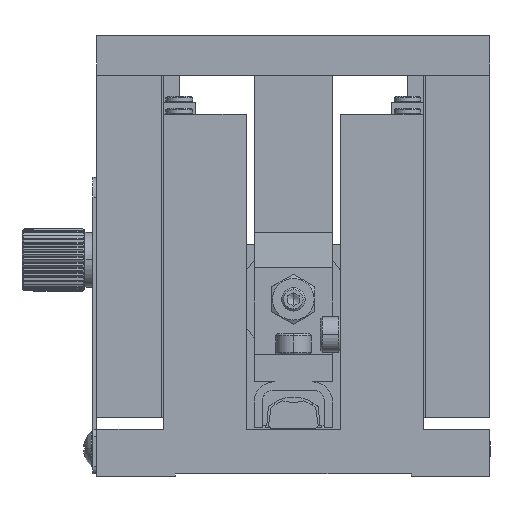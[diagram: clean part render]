
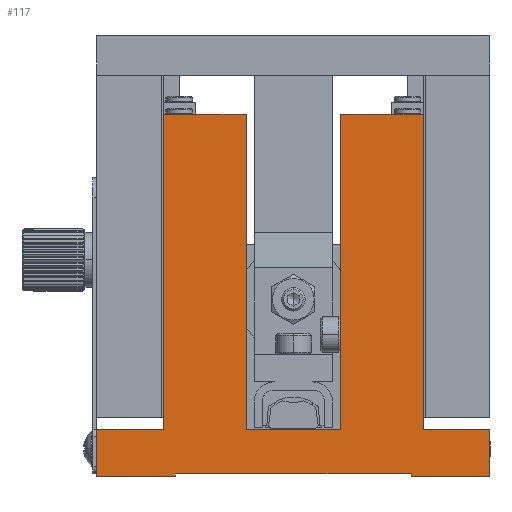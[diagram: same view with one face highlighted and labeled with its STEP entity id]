
A CAD part, left-side view. The second image highlights one B-rep face of the part: STEP entity #117.
In plain terms, the highlighted planar face has unit normal (-1, 0, 0).
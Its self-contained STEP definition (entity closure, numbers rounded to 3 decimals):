
#117=ADVANCED_FACE('',(#2330),#2329,.T.);
#2329=PLANE('',#24217);
#2330=FACE_OUTER_BOUND('',#24218,.T.);
#24214=CARTESIAN_POINT('',(-25.,30.,50.6));
#24215=DIRECTION('',(-1.,0.,0.));
#24216=DIRECTION('',(0.,0.,-1.));
#24217=AXIS2_PLACEMENT_3D('',#24214,#24215,#24216);
#24218=EDGE_LOOP('',(#38934,#38935,#38936,#38937,#38938,#38939,#38940,#38941,#38942,#38943,#38944,#38945,#38946,#38947,#38948,#38949));
#38934=ORIENTED_EDGE('',*,*,#48827,.T.);
#38935=ORIENTED_EDGE('',*,*,#48828,.T.);
#38936=ORIENTED_EDGE('',*,*,#48829,.T.);
#38937=ORIENTED_EDGE('',*,*,#48830,.T.);
#38938=ORIENTED_EDGE('',*,*,#48831,.T.);
#38939=ORIENTED_EDGE('',*,*,#48832,.T.);
#38940=ORIENTED_EDGE('',*,*,#48833,.T.);
#38941=ORIENTED_EDGE('',*,*,#48834,.T.);
#38942=ORIENTED_EDGE('',*,*,#48835,.T.);
#38943=ORIENTED_EDGE('',*,*,#48836,.F.);
#38944=ORIENTED_EDGE('',*,*,#48837,.T.);
#38945=ORIENTED_EDGE('',*,*,#48838,.T.);
#38946=ORIENTED_EDGE('',*,*,#48839,.T.);
#38947=ORIENTED_EDGE('',*,*,#48840,.F.);
#38948=ORIENTED_EDGE('',*,*,#48841,.T.);
#38949=ORIENTED_EDGE('',*,*,#48820,.F.);
#48820=EDGE_CURVE('',#53893,#53900,#53901,.T.);
#48827=EDGE_CURVE('',#53893,#53947,#53948,.T.);
#48828=EDGE_CURVE('',#53947,#53954,#53955,.T.);
#48829=EDGE_CURVE('',#53954,#53961,#53962,.T.);
#48830=EDGE_CURVE('',#53961,#53968,#53969,.T.);
#48831=EDGE_CURVE('',#53968,#53975,#53976,.T.);
#48832=EDGE_CURVE('',#53975,#53982,#53983,.T.);
#48833=EDGE_CURVE('',#53982,#53989,#53990,.T.);
#48834=EDGE_CURVE('',#53989,#53996,#53997,.T.);
#48835=EDGE_CURVE('',#53996,#54003,#54004,.T.);
#48836=EDGE_CURVE('',#54010,#54003,#54011,.T.);
#48837=EDGE_CURVE('',#54010,#54017,#54018,.T.);
#48838=EDGE_CURVE('',#54017,#54024,#54025,.T.);
#48839=EDGE_CURVE('',#54024,#54031,#54032,.T.);
#48840=EDGE_CURVE('',#54038,#54031,#54039,.T.);
#48841=EDGE_CURVE('',#54038,#53900,#54045,.T.);
#53893=VERTEX_POINT('',#86492);
#53900=VERTEX_POINT('',#86496);
#53901=LINE('',#86497,#86498);
#53947=VERTEX_POINT('',#86523);
#53948=LINE('',#86524,#86525);
#53954=VERTEX_POINT('',#86527);
#53955=LINE('',#86528,#86529);
#53961=VERTEX_POINT('',#86531);
#53962=LINE('',#86532,#86533);
#53968=VERTEX_POINT('',#86535);
#53969=LINE('',#86536,#86537);
#53975=VERTEX_POINT('',#86539);
#53976=LINE('',#86540,#86541);
#53982=VERTEX_POINT('',#86543);
#53983=LINE('',#86544,#86545);
#53989=VERTEX_POINT('',#86547);
#53990=LINE('',#86548,#86549);
#53996=VERTEX_POINT('',#86551);
#53997=LINE('',#86552,#86553);
#54003=VERTEX_POINT('',#86555);
#54004=LINE('',#86556,#86557);
#54010=VERTEX_POINT('',#86559);
#54011=LINE('',#86560,#86561);
#54017=VERTEX_POINT('',#86563);
#54018=LINE('',#86564,#86565);
#54024=VERTEX_POINT('',#86567);
#54025=LINE('',#86568,#86569);
#54031=VERTEX_POINT('',#86571);
#54032=LINE('',#86572,#86573);
#54038=VERTEX_POINT('',#86575);
#54039=LINE('',#86576,#86577);
#54045=LINE('',#86579,#86580);
#86492=CARTESIAN_POINT('',(-25.,25.,0.));
#86496=CARTESIAN_POINT('',(-25.,25.,6.));
#86497=CARTESIAN_POINT('',(-25.,25.,0.));
#86498=VECTOR('',#86499,6.);
#86499=DIRECTION('',(0.,0.,1.));
#86523=CARTESIAN_POINT('',(-25.,15.,0.));
#86524=CARTESIAN_POINT('',(-25.,25.,0.));
#86525=VECTOR('',#86526,10.);
#86526=DIRECTION('',(0.,-1.,0.));
#86527=CARTESIAN_POINT('',(-25.,15.,0.3));
#86528=CARTESIAN_POINT('',(-25.,15.,0.));
#86529=VECTOR('',#86530,0.3);
#86530=DIRECTION('',(0.,0.,1.));
#86531=CARTESIAN_POINT('',(-25.,-15.,0.3));
#86532=CARTESIAN_POINT('',(-25.,15.,0.3));
#86533=VECTOR('',#86534,30.);
#86534=DIRECTION('',(0.,-1.,0.));
#86535=CARTESIAN_POINT('',(-25.,-15.,0.));
#86536=CARTESIAN_POINT('',(-25.,-15.,0.3));
#86537=VECTOR('',#86538,0.3);
#86538=DIRECTION('',(0.,0.,-1.));
#86539=CARTESIAN_POINT('',(-25.,-25.,0.));
#86540=CARTESIAN_POINT('',(-25.,-15.,0.));
#86541=VECTOR('',#86542,10.);
#86542=DIRECTION('',(0.,-1.,0.));
#86543=CARTESIAN_POINT('',(-25.,-25.,6.));
#86544=CARTESIAN_POINT('',(-25.,-25.,0.));
#86545=VECTOR('',#86546,6.);
#86546=DIRECTION('',(0.,0.,1.));
#86547=CARTESIAN_POINT('',(-25.,-16.5,6.));
#86548=CARTESIAN_POINT('',(-25.,-25.,6.));
#86549=VECTOR('',#86550,8.5);
#86550=DIRECTION('',(0.,1.,0.));
#86551=CARTESIAN_POINT('',(-25.,-16.5,46.));
#86552=CARTESIAN_POINT('',(-25.,-16.5,6.));
#86553=VECTOR('',#86554,40.);
#86554=DIRECTION('',(0.,0.,1.));
#86555=CARTESIAN_POINT('',(-25.,-6.,46.));
#86556=CARTESIAN_POINT('',(-25.,-16.5,46.));
#86557=VECTOR('',#86558,10.5);
#86558=DIRECTION('',(0.,1.,0.));
#86559=CARTESIAN_POINT('',(-25.,-6.,6.));
#86560=CARTESIAN_POINT('',(-25.,-6.,6.));
#86561=VECTOR('',#86562,40.);
#86562=DIRECTION('',(0.,0.,1.));
#86563=CARTESIAN_POINT('',(-25.,6.,6.));
#86564=CARTESIAN_POINT('',(-25.,-6.,6.));
#86565=VECTOR('',#86566,12.);
#86566=DIRECTION('',(0.,1.,0.));
#86567=CARTESIAN_POINT('',(-25.,6.,46.));
#86568=CARTESIAN_POINT('',(-25.,6.,6.));
#86569=VECTOR('',#86570,40.);
#86570=DIRECTION('',(0.,0.,1.));
#86571=CARTESIAN_POINT('',(-25.,16.5,46.));
#86572=CARTESIAN_POINT('',(-25.,6.,46.));
#86573=VECTOR('',#86574,10.5);
#86574=DIRECTION('',(0.,1.,0.));
#86575=CARTESIAN_POINT('',(-25.,16.5,6.));
#86576=CARTESIAN_POINT('',(-25.,16.5,6.));
#86577=VECTOR('',#86578,40.);
#86578=DIRECTION('',(0.,0.,1.));
#86579=CARTESIAN_POINT('',(-25.,16.5,6.));
#86580=VECTOR('',#86581,8.5);
#86581=DIRECTION('',(0.,1.,0.));
